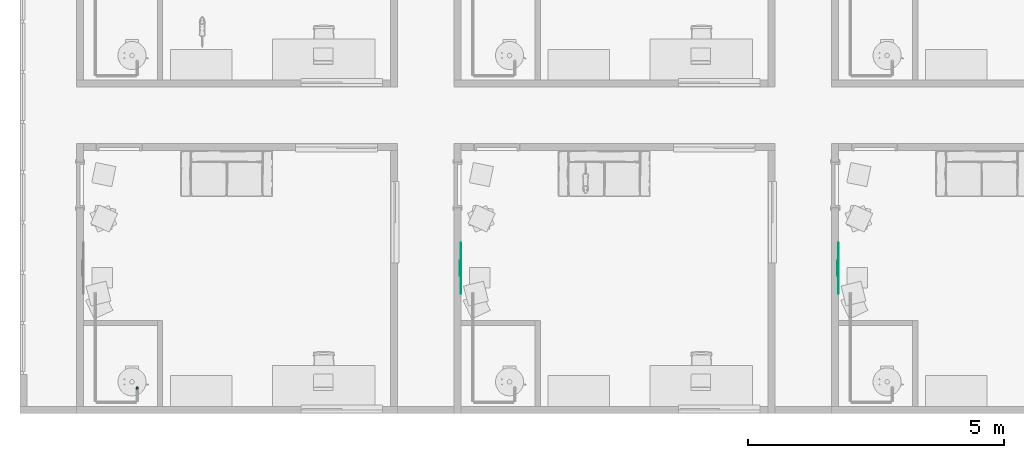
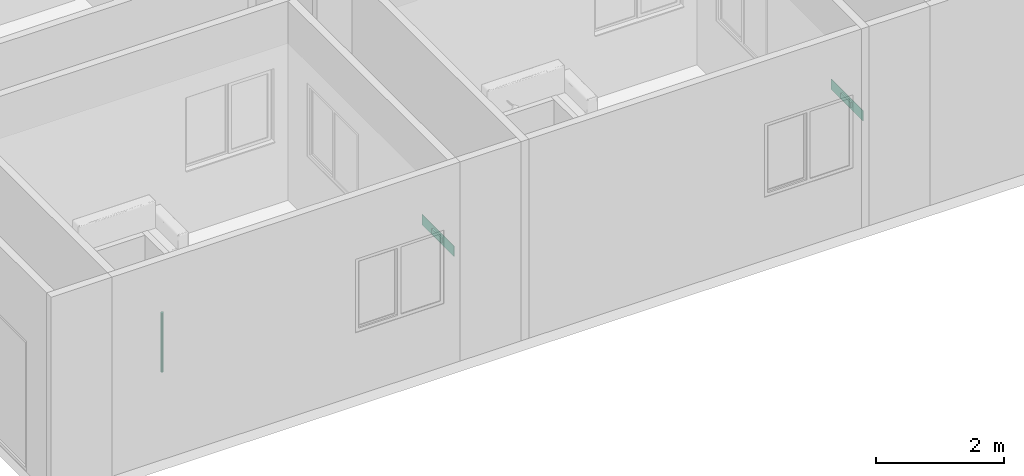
# One storey, part 16 of 71: 2 air terminals, 1 pipe segment.
"""IFC4 building model written with IfcOpenShell, lengths in centimetres."""

from ifc_helpers import new_model, entity, si_unit, converted_unit, derived_unit, direction, frame, origin, place, context, subcontext, project, spatial, arc, indexed_curve, outline, extrude, source, transform, mapped, material, constituent, constituent_set, type_object, type_shapes, element, save


model = new_model("IFC4")

# Units and contexts
model_context = context("Model", 3, precision=0.001, world=origin(), true_north=direction((6.123233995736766e-17, 1.0)))
body_context = subcontext(model_context, "Body", "Model", "MODEL_VIEW")
ifc_project = project(units=[si_unit("LENGTHUNIT", "METRE", prefix="CENTI"), si_unit("AREAUNIT", "SQUARE_METRE"), si_unit("VOLUMEUNIT", "CUBIC_METRE"), derived_unit("THERMALTRANSMITTANCEUNIT", [(si_unit("MASSUNIT", "GRAM", prefix="KILO"), 1), (si_unit("THERMODYNAMICTEMPERATUREUNIT", "KELVIN"), -1), (si_unit("TIMEUNIT", "SECOND"), -3)]), converted_unit("PLANEANGLEUNIT", "DEGREE", entity("IfcPlaneAngleMeasure", 0.017453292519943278), si_unit("PLANEANGLEUNIT", "RADIAN"), dimensions=[0, 0, 0, 0, 0, 0, 0]), derived_unit("MASSDENSITYUNIT", [(si_unit("MASSUNIT", "GRAM", prefix="KILO"), 1), (si_unit("LENGTHUNIT", "METRE"), -3)]), derived_unit("VAPORPERMEABILITYUNIT", [(si_unit("LENGTHUNIT", "METRE"), -1), (si_unit("TIMEUNIT", "SECOND"), 1)]), derived_unit("USERDEFINED", [(si_unit("MASSUNIT", "GRAM", prefix="KILO"), 1), (si_unit("TIMEUNIT", "SECOND"), -3), (si_unit("LENGTHUNIT", "METRE"), 3), (si_unit("ELECTRICCURRENTUNIT", "AMPERE"), -2)]), derived_unit("SPECIFICHEATCAPACITYUNIT", [(si_unit("THERMODYNAMICTEMPERATUREUNIT", "KELVIN"), -1), (si_unit("LENGTHUNIT", "METRE"), 2), (si_unit("TIMEUNIT", "SECOND"), -2)]), derived_unit("THERMALCONDUCTANCEUNIT", [(si_unit("MASSUNIT", "GRAM", prefix="KILO"), 1), (si_unit("THERMODYNAMICTEMPERATUREUNIT", "KELVIN"), -1), (si_unit("TIMEUNIT", "SECOND"), -3), (si_unit("LENGTHUNIT", "METRE"), 1)]), si_unit("PRESSUREUNIT", "PASCAL"), derived_unit("MODULUSOFELASTICITYUNIT", [(si_unit("MASSUNIT", "GRAM", prefix="KILO"), 1), (si_unit("LENGTHUNIT", "METRE"), -1), (si_unit("TIMEUNIT", "SECOND"), -2)]), derived_unit("THERMALEXPANSIONCOEFFICIENTUNIT", [(si_unit("THERMODYNAMICTEMPERATUREUNIT", "KELVIN"), -1)])], contexts=[model_context])

# Site, building, storey, space
site_placement = place(None, origin())
site = spatial("IfcSite", under=ifc_project, at=site_placement, Name="Default", CompositionType="ELEMENT")
building_placement = place(site_placement, origin())
building = spatial("IfcBuilding", under=site, at=building_placement, Name="IDS Escape Game Building", CompositionType="ELEMENT")
storey_placement = place(building_placement, frame((0.0, 0.0, 1200.0)))
storey = spatial("IfcBuildingStorey", under=building, at=storey_placement, Name="03_Third Floor", CompositionType="ELEMENT", Elevation=1200.0)
space_1_placement = place(storey_placement, origin())
space_1 = spatial("IfcSpace", under=storey, at=space_1_placement, Name="107", CompositionType="ELEMENT", PredefinedType="NOTDEFINED")

# Air terminal
ifc_material_1 = material(Name="TB_LVC_referentievlak_00_gen_BERSnl", Category="BE Default")
ifc_constituent_1 = constituent(ifc_material_1, Name="TB_LVC_referentievlak_00_gen_BERSnl", Category="BE Default", fraction=0.00014157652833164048)
ifc_material_2 = material(Name="ARC_FME.h2_staal_00_gen_BERSnl", Category="h - metaal")
ifc_constituent_2 = constituent(ifc_material_2, Name="ARC_FME.h2_staal_00_gen_BERSnl", Category="h - metaal", fraction=0.9998584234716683)
ifc_constituent_set_1 = constituent_set(constituents=[ifc_constituent_1, ifc_constituent_2])
ifc_constituent_3 = constituent(ifc_material_1, Name="BE Referentievlak", Category="BE Default", fraction=0.00014157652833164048)
ifc_constituent_4 = constituent(ifc_material_2, Name="Terminals", Category="h - metaal", fraction=0.9998584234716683)
ifc_constituent_set_2 = constituent_set(constituents=[ifc_constituent_3, ifc_constituent_4])
air_terminal_type = type_object("IfcAirTerminalType", Name="TB_57_AIR_FB_aanzuigrooster - 1 rechthoekige aansluiting - calculated flow_gen_BERSnl:Air Terminal - Exhaust", PredefinedType="GRILLE", material=ifc_constituent_set_2)
shared_shape = source(origin(), body_context, "Body", "SweptSolid", [
    extrude(outline(indexed_curve([(-0.5, -2.0290176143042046e-15), (6.8507733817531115e-16, -0.5000000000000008), (0.5, 2.0290176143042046e-15), (-5.361679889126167e-16, 0.49999999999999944)], segments=[arc(1, 2, 3), arc(3, 4, 1)], self_intersect=False)), frame((0.0, 0.0, 0.0), z_axis=(1.7453292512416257e-05, 0.0, 1.0), x_axis=(0.0, 1.0, 0.0)), (0.0, 0.0, 1.0), 0.09999999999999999),
    extrude(outline(indexed_curve([(-14.900000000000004, -4.9), (14.900000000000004, -4.9), (14.900000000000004, 4.9), (-14.900000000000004, 4.9), (-14.900000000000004, -4.9)], self_intersect=False)), frame((-4.886921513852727e-05, 0.0, -2.7999999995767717)), (0.0, 0.0, 1.0), 2.7999999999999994),
    extrude(outline(indexed_curve([(-50.0, -10.0), (50.0, -10.0), (50.0, 10.0), (-50.0, 10.0), (-50.0, -10.0)], self_intersect=False)), frame((0.0, 0.0, 0.0), z_axis=(0.0, 0.0, 1.0), x_axis=(-1.0, 0.0, 0.0)), (0.0, 0.0, 1.0), 0.6999999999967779),
])
type_shapes(air_terminal_type, [shared_shape])
air_terminal_1_placement = place(space_1_placement, frame((745.0, 283.0, 24.0), z_axis=(1.0, 0.0, 0.0), x_axis=(0.0, 1.0, 0.0)))
element("IfcAirTerminal", 1, at=air_terminal_1_placement, inside=space_1, type_object=air_terminal_type, material=ifc_constituent_set_1, Name="TB_57_AIR_FB_aanzuigrooster - 1 rechthoekige aansluiting - calculated flow_gen_BERSnl:Air Terminal - Exhaust", ObjectType="TB_57_AIR_FB_aanzuigrooster - 1 rechthoekige aansluiting - calculated flow_gen_BERSnl:Air Terminal - Exhaust", PredefinedType="GRILLE", context=body_context, shape_type="MappedRepresentation", body=[
    mapped(shared_shape, transform((0.0, 0.0, 0.0), scale=1.0)),
])

# Space
space_2_placement = place(storey_placement, origin())
space_2 = spatial("IfcSpace", under=storey, at=space_2_placement, Name="108", CompositionType="ELEMENT", PredefinedType="NOTDEFINED")

# Air terminal
ifc_constituent_5 = constituent(ifc_material_1, Name="TB_LVC_referentievlak_00_gen_BERSnl", Category="BE Default", fraction=0.00014157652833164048)
ifc_constituent_6 = constituent(ifc_material_2, Name="ARC_FME.h2_staal_00_gen_BERSnl", Category="h - metaal", fraction=0.9998584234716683)
ifc_constituent_set_3 = constituent_set(constituents=[ifc_constituent_5, ifc_constituent_6])
air_terminal_2_placement = place(space_2_placement, frame((1483.0, 283.0, 24.0), z_axis=(1.0, 0.0, 0.0), x_axis=(0.0, 1.0, 0.0)))
element("IfcAirTerminal", 2, at=air_terminal_2_placement, inside=space_2, type_object=air_terminal_type, material=ifc_constituent_set_3, Name="TB_57_AIR_FB_aanzuigrooster - 1 rechthoekige aansluiting - calculated flow_gen_BERSnl:Air Terminal - Exhaust", ObjectType="TB_57_AIR_FB_aanzuigrooster - 1 rechthoekige aansluiting - calculated flow_gen_BERSnl:Air Terminal - Exhaust", PredefinedType="GRILLE", context=body_context, shape_type="MappedRepresentation", body=[
    mapped(shared_shape, transform((0.0, 0.0, 0.0), scale=1.0)),
])

# Pipe segment
pipe_segment_type = type_object("IfcPipeSegmentType", Name="Pipe Types:Piping Aluminum", PredefinedType="NOTDEFINED")
pipe_segment_placement = place(storey_placement, origin())
element("IfcPipeSegment", 3, at=pipe_segment_placement, inside=storey, type_object=pipe_segment_type, Name="Pipe Types:Piping Aluminum", ObjectType="Pipe Types:Piping Aluminum", PredefinedType="NOTDEFINED", context=body_context, shape_type="SweptSolid", body=[
    extrude(outline(indexed_curve([(2.412999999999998, 0.0), (1.7062486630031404, 1.7062486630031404), (-1.3535839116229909e-14, 2.412999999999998), (-1.7062486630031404, 1.7062486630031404), (-2.412999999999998, 6.767919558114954e-15), (-1.706248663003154, -1.7062486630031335), (-1.3535839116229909e-14, -2.412999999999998), (1.7062486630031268, -1.706248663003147)], segments=[arc(1, 2, 3), arc(3, 4, 5), arc(5, 6, 7), arc(7, 8, 1)], self_intersect=False)), frame((112.15000000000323, 48.90000000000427, 128.0), z_axis=(0.0, 0.0, 1.0), x_axis=(-1.0, 0.0, 0.0)), (0.0, 0.0, 1.0), 112.90000000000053),
])

save(model, "model.ifc")
